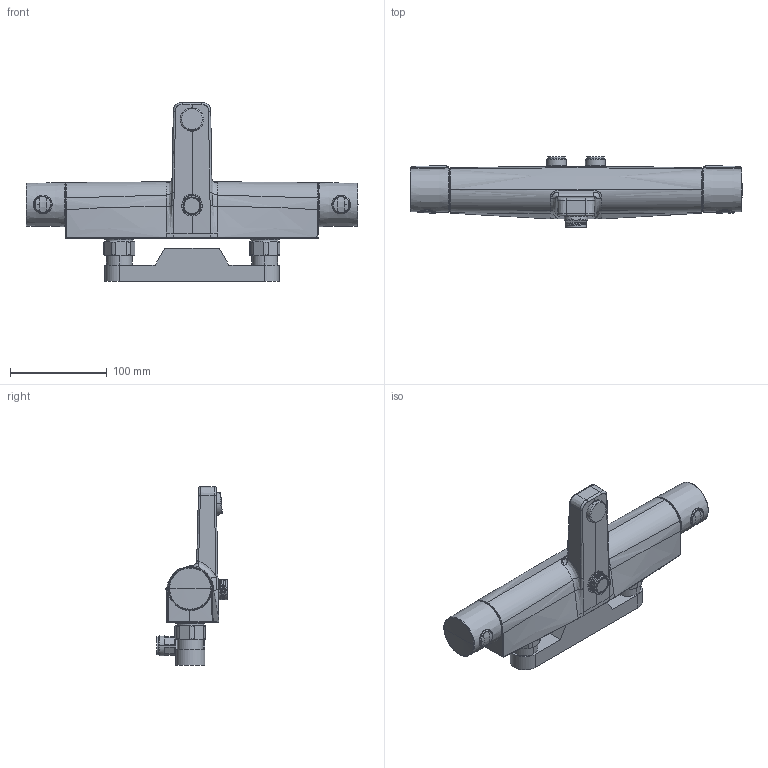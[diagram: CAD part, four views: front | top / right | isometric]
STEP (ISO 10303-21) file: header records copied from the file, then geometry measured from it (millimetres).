
FILE_DESCRIPTION (( 'STEP AP203' ), '1' );
FILE_NAME ('7155N(2023).STEP', '2023-01-19T08:02:12', ( '' ), ( '' ), 'SwSTEP 2.0', 'SolidWorks 2016', '' );
FILE_SCHEMA (( 'CONFIG_CONTROL_DESIGN' ));
Length unit declared in the file: millimetre
Products named in the file (1): 7155N(2023)
Bounding box: 342.5 x 72.72 x 184.09 mm (x, y, z)
Surface area: 119058 mm2 (no closed solid volume)
Topology: 0 solids, 5 shells, 722 faces, 1698 edges, 1010 vertices
Faces by surface type: bspline 385, cylinder 130, plane 130, cone 71, sphere 4, torus 2
Full cylindrical faces by diameter (mm): 18.16 x2
Entity records: 61647 total; most frequent: CARTESIAN_POINT 48087, ORIENTED_EDGE 3345, DIRECTION 1984, EDGE_CURVE 1678, VERTEX_POINT 1011, AXIS2_PLACEMENT_3D 834, B_SPLINE_CURVE_WITH_KNOTS 789, EDGE_LOOP 775
